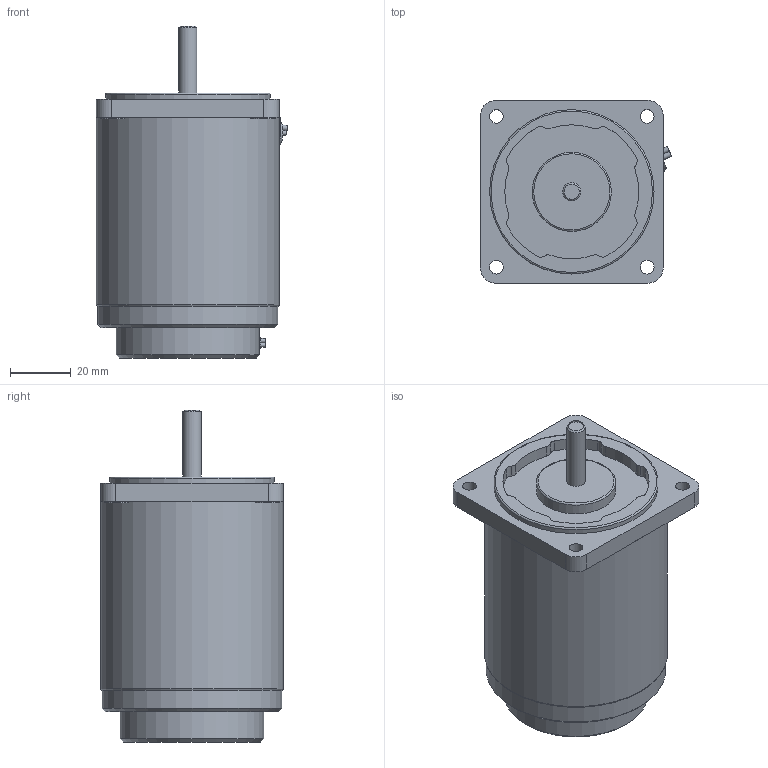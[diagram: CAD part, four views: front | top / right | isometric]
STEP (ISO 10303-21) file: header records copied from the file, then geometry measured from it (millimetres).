
FILE_DESCRIPTION((''),'2;1');
FILE_NAME('E:\2공장-도면\3D\표준형 3D(민규)\step file\SU,SP\K6IS6Nㅁ-Sㅁ.stp','2014-11-14T13:59:54',('AHN'),(''),'Autodesk Inventor 2012','Autodesk Inventor 2012','');
FILE_SCHEMA(('CONFIG_CONTROL_DESIGN'));
Length unit declared in the file: millimetre
Products named in the file (1): K6IS6Nㅁ-Sㅁ
Bounding box: 62.76 x 60 x 109 mm (x, y, z)
Volume: 233629 mm3; surface area: 24800.1 mm2
Topology: 1 solids, 1 shells, 91 faces, 207 edges, 126 vertices
Faces by surface type: cylinder 53, plane 32, torus 3, cone 3
Full cylindrical faces by diameter (mm): 1.4 x2, 4.5 x4, 6 x1, 7 x1, 8 x4, 10 x1, 26 x1, 47 x1, 54 x1, 59 x1, 60 x1
Entity records: 2528 total; most frequent: DIRECTION 478, CARTESIAN_POINT 447, ORIENTED_EDGE 366, AXIS2_PLACEMENT_3D 205, EDGE_CURVE 183, EDGE_LOOP 132, VERTEX_POINT 122, CIRCLE 113
